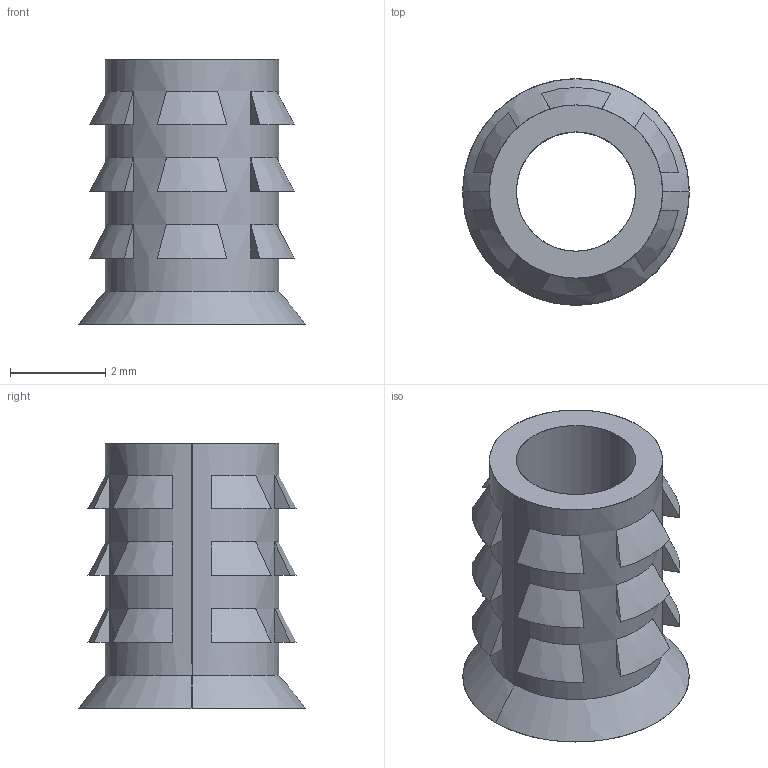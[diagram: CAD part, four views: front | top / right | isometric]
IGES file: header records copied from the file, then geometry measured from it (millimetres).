
Start section: SolidWorks IGES file using analytic representation for surfaces
Global section: file name: G:\thermofab project\INSERT\insert project\INSERT 3D\Insert M3.IGS; native system: SolidWorks 2015; preprocessor: SolidWorks 2015; author: Administrator; date: 170809.163827; units: millimetre
Bounding box: 4.75 x 4.75 x 5.56 mm (x, y, z)
Surface area: 146.3 mm2 (no closed solid volume)
Topology: 0 solids, 0 shells, 82 faces, 556 edges, 556 vertices
Faces by surface type: bspline 76, revolution 6
